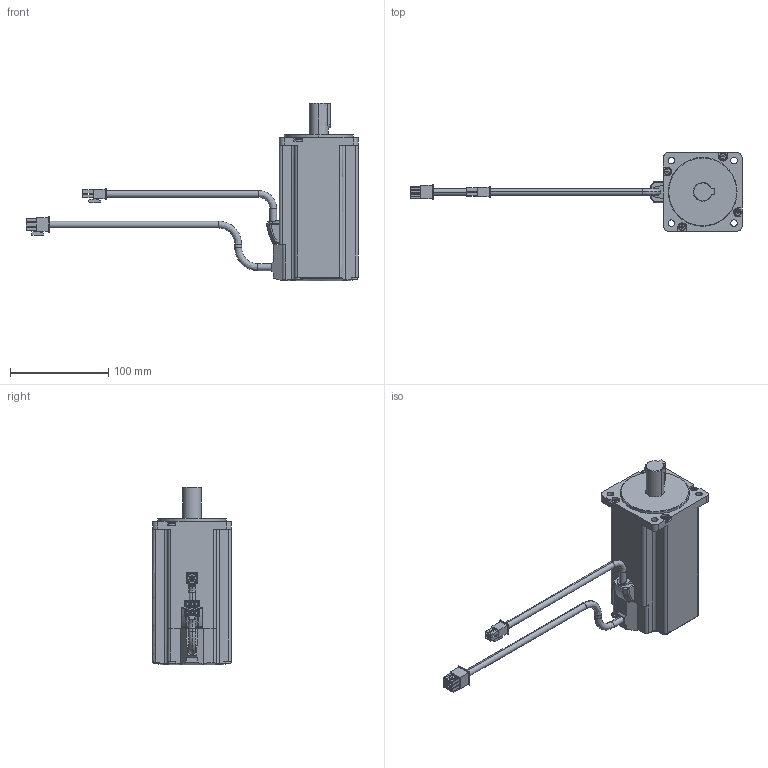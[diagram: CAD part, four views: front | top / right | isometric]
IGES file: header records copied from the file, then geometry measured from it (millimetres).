
Start section:  PTC IGES file: 10001028_rsmz-08bq-bh_no-brake.igs
Global section: file name: 10001028_rsmz-08bq-bh_no-brake.igs; native system: Pro/ENGINEER by Parametric Technology Corporation; preprocessor: 2004440; author: Administrator; organization: Unknown; date: 070829.201540; units: millimetre
Bounding box: 337.7 x 80 x 181 mm (x, y, z)
Volume: 844187.5 mm3; surface area: 76763.6 mm2
Topology: 1 solids, 1 shells, 462 faces, 1172 edges, 760 vertices
Faces by surface type: bspline 332, revolution 130
